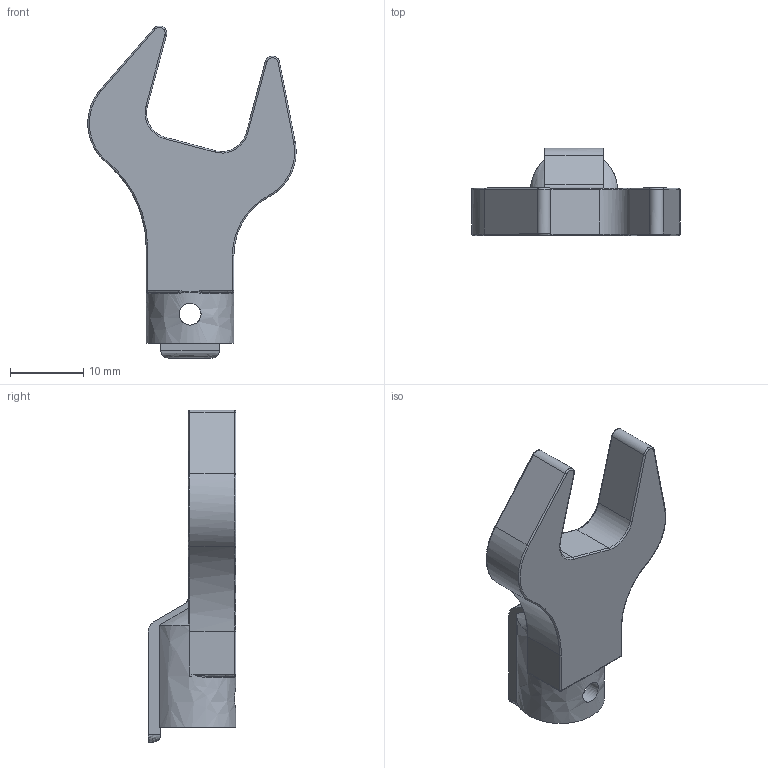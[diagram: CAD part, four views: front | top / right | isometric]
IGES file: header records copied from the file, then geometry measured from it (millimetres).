
Global section: file name: SH8DX14; native system: Autodesk Inventor 2016; preprocessor: unknown; author: Q600; date: 20151029.200158; units: millimetre
Bounding box: 28.48 x 12 x 45.4 mm (x, y, z)
Volume: 4041.8 mm3; surface area: 2503.9 mm2
Topology: 1 solids, 1 shells, 88 faces, 222 edges, 129 vertices
Faces by surface type: bspline 88
